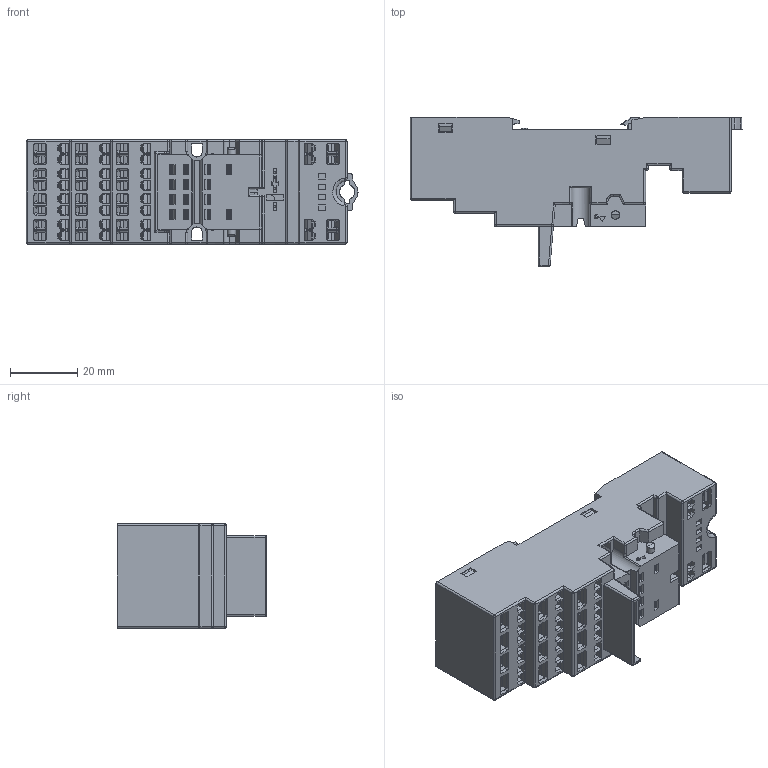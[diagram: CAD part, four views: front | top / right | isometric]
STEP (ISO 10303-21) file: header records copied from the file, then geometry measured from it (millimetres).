
FILE_DESCRIPTION(('STEP AP214'),'2;1');
FILE_NAME('94_54_catalogo_zoccolo---OK.stp','2011-07-25T16:43:57',(''),(''),'2007.1.106','THINKDESIGN','');
FILE_SCHEMA(('AUTOMOTIVE_DESIGN'));
Products named in the file (1): None
Bounding box: 98.65 x 44.5 x 31 mm (x, y, z)
Surface area: 24356 mm2 (no closed solid volume)
Topology: 0 solids, 0 shells, 1975 faces, 11772 edges, 11741 vertices
Faces by surface type: plane 1112, cylinder 670, bspline 193
Full cylindrical faces by diameter (mm): 2.5 x2
Entity records: 117572 total; most frequent: CARTESIAN_POINT 38408, DIRECTION 13599, COMPOSITE_CURVE_SEGMENT 11742, TRIMMED_CURVE 9015, VECTOR 7995, LINE 7995, AXIS2_PLACEMENT_3D 2802, OUTER_BOUNDARY_CURVE 1975
